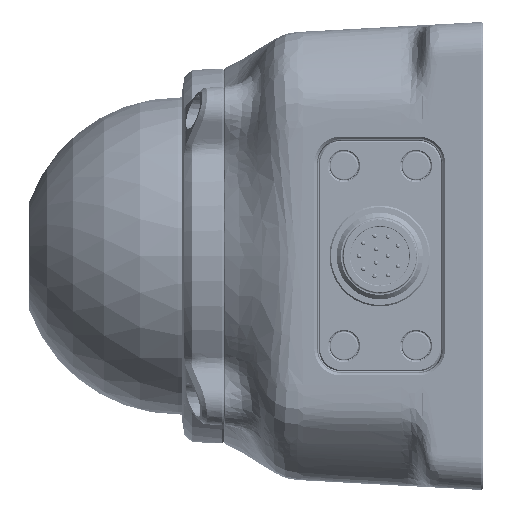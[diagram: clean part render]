
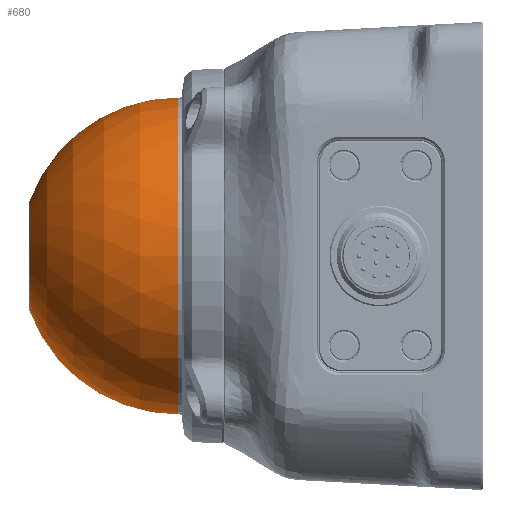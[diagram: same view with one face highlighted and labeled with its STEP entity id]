
A CAD part, left-side view. The second image highlights one B-rep face of the part: STEP entity #680.
In plain terms, the highlighted spherical face has radius 22 mm.
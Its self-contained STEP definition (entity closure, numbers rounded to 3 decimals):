
#39=CARTESIAN_POINT('',(0.,13.383,0.));
#40=DIRECTION('',(1.,0.,0.));
#41=DIRECTION('',(0.,0.,-1.));
#42=AXIS2_PLACEMENT_3D('',#39,#40,#41);
#47=CARTESIAN_POINT('',(0.,33.988,0.));
#48=DIRECTION('',(0.,-1.,0.));
#49=DIRECTION('',(0.,0.,1.));
#50=AXIS2_PLACEMENT_3D('',#47,#48,#49);
#55=CARTESIAN_POINT('',(0.,13.383,0.));
#56=DIRECTION('',(1.,0.,0.));
#57=DIRECTION('',(0.,0.937,0.35));
#58=AXIS2_PLACEMENT_3D('',#55,#56,#57);
#156=CARTESIAN_POINT('',(0.,13.383,0.));
#157=DIRECTION('',(0.,-1.,0.));
#158=DIRECTION('',(0.,0.,1.));
#159=AXIS2_PLACEMENT_3D('',#156,#157,#158);
#563=CARTESIAN_POINT('',(0.,13.383,22.));
#564=CARTESIAN_POINT('',(0.,13.383,-22.));
#565=VERTEX_POINT('',#563);
#566=VERTEX_POINT('',#564);
#599=CARTESIAN_POINT('',(0.,33.988,-7.71));
#600=CARTESIAN_POINT('',(0.,33.988,7.71));
#601=VERTEX_POINT('',#599);
#602=VERTEX_POINT('',#600);
#667=CARTESIAN_POINT('',(0.,13.383,0.));
#668=DIRECTION('',(0.,1.,0.));
#669=DIRECTION('',(0.,0.,-1.));
#670=AXIS2_PLACEMENT_3D('',#667,#668,#669);
#671=SPHERICAL_SURFACE('',#670,22.);
#672=ORIENTED_EDGE('',*,*,#648,.T.);
#674=ORIENTED_EDGE('',*,*,#673,.F.);
#675=ORIENTED_EDGE('',*,*,#644,.T.);
#677=ORIENTED_EDGE('',*,*,#676,.T.);
#678=EDGE_LOOP('',(#672,#674,#675,#677));
#679=FACE_OUTER_BOUND('',#678,.F.);
#680=ADVANCED_FACE('',(#679),#671,.T.);
#43=CIRCLE('',#42,22.);
#51=CIRCLE('',#50,7.71);
#59=CIRCLE('',#58,22.);
#160=CIRCLE('',#159,22.);
#644=EDGE_CURVE('',#602,#565,#59,.T.);
#648=EDGE_CURVE('',#566,#601,#43,.T.);
#673=EDGE_CURVE('',#602,#601,#51,.T.);
#676=EDGE_CURVE('',#565,#566,#160,.T.);
